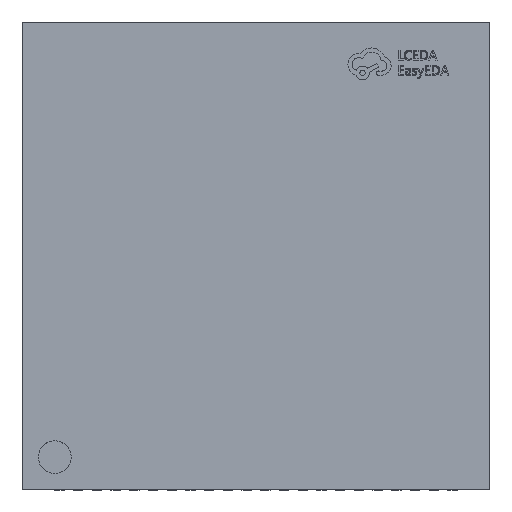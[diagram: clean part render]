
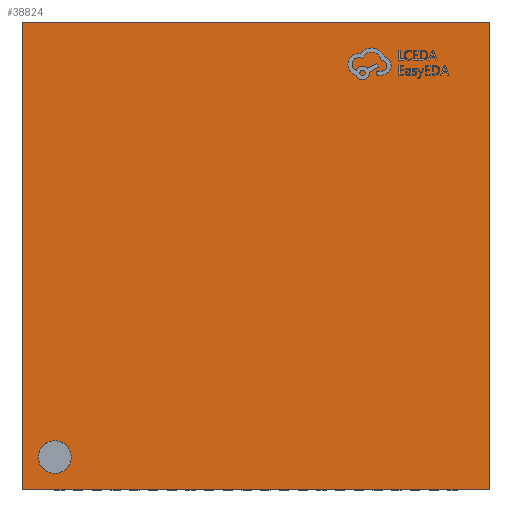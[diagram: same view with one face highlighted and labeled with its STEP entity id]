
A CAD part, top view. The second image highlights one B-rep face of the part: STEP entity #38824.
In plain terms, the highlighted planar face has unit normal (0, 0, 1).
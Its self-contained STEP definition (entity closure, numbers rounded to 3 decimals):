
#38789 = VERTEX_POINT('',#38790);
#38790 = CARTESIAN_POINT('',(-3.95,-4.3,0.75));
#38796 = EDGE_CURVE('',#38797,#38789,#38799,.T.);
#38797 = VERTEX_POINT('',#38798);
#38798 = CARTESIAN_POINT('',(-4.65,-4.3,0.75));
#38799 = CIRCLE('',#38800,0.35);
#38800 = AXIS2_PLACEMENT_3D('',#38801,#38802,#38803);
#38801 = CARTESIAN_POINT('',(-4.3,-4.3,0.75));
#38802 = DIRECTION('',(0.,0.,1.));
#38803 = DIRECTION('',(1.,0.,-0.));
#38824 = ADVANCED_FACE('',(#38825,#38835),#38869,.T.);
#38825 = FACE_BOUND('',#38826,.T.);
#38826 = EDGE_LOOP('',(#38827,#38834));
#38827 = ORIENTED_EDGE('',*,*,#38828,.F.);
#38828 = EDGE_CURVE('',#38789,#38797,#38829,.T.);
#38829 = CIRCLE('',#38830,0.35);
#38830 = AXIS2_PLACEMENT_3D('',#38831,#38832,#38833);
#38831 = CARTESIAN_POINT('',(-4.3,-4.3,0.75));
#38832 = DIRECTION('',(0.,0.,1.));
#38833 = DIRECTION('',(1.,0.,-0.));
#38834 = ORIENTED_EDGE('',*,*,#38796,.F.);
#38835 = FACE_BOUND('',#38836,.T.);
#38836 = EDGE_LOOP('',(#38837,#38847,#38855,#38863));
#38837 = ORIENTED_EDGE('',*,*,#38838,.T.);
#38838 = EDGE_CURVE('',#38839,#38841,#38843,.T.);
#38839 = VERTEX_POINT('',#38840);
#38840 = CARTESIAN_POINT('',(5.,-5.,0.75));
#38841 = VERTEX_POINT('',#38842);
#38842 = CARTESIAN_POINT('',(5.,5.,0.75));
#38843 = LINE('',#38844,#38845);
#38844 = CARTESIAN_POINT('',(5.,5.,0.75));
#38845 = VECTOR('',#38846,1.);
#38846 = DIRECTION('',(0.,1.,0.));
#38847 = ORIENTED_EDGE('',*,*,#38848,.T.);
#38848 = EDGE_CURVE('',#38841,#38849,#38851,.T.);
#38849 = VERTEX_POINT('',#38850);
#38850 = CARTESIAN_POINT('',(-5.,5.,0.75));
#38851 = LINE('',#38852,#38853);
#38852 = CARTESIAN_POINT('',(-5.,5.,0.75));
#38853 = VECTOR('',#38854,1.);
#38854 = DIRECTION('',(-1.,-0.,-0.));
#38855 = ORIENTED_EDGE('',*,*,#38856,.T.);
#38856 = EDGE_CURVE('',#38849,#38857,#38859,.T.);
#38857 = VERTEX_POINT('',#38858);
#38858 = CARTESIAN_POINT('',(-5.,-5.,0.75));
#38859 = LINE('',#38860,#38861);
#38860 = CARTESIAN_POINT('',(-5.,5.,0.75));
#38861 = VECTOR('',#38862,1.);
#38862 = DIRECTION('',(0.,-1.,0.));
#38863 = ORIENTED_EDGE('',*,*,#38864,.T.);
#38864 = EDGE_CURVE('',#38857,#38839,#38865,.T.);
#38865 = LINE('',#38866,#38867);
#38866 = CARTESIAN_POINT('',(-5.,-5.,0.75));
#38867 = VECTOR('',#38868,1.);
#38868 = DIRECTION('',(1.,0.,0.));
#38869 = PLANE('',#38870);
#38870 = AXIS2_PLACEMENT_3D('',#38871,#38872,#38873);
#38871 = CARTESIAN_POINT('',(0.,0.,0.75));
#38872 = DIRECTION('',(0.,0.,1.));
#38873 = DIRECTION('',(1.,0.,-0.));
